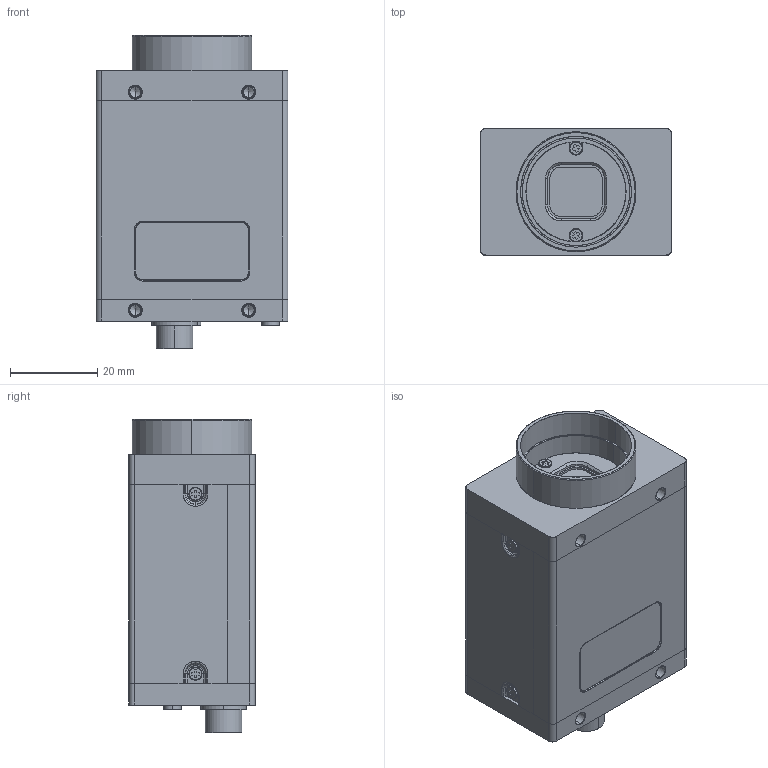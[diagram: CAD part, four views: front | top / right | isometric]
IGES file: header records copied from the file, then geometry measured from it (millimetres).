
Start section: SolidWorks IGES file using analytic representation for surfaces
Global section: file name: F:\mechanical\Documentation\Grasshopper\extracted files\GSR-002-R1.IGS; native system: SolidWorks 2014; preprocessor: SolidWorks 2014; author: gus; date: 131220.134542; units: millimetre
Bounding box: 44 x 29 x 71.8 mm (x, y, z)
Surface area: 13450.1 mm2 (no closed solid volume)
Topology: 0 solids, 0 shells, 471 faces, 4745 edges, 4725 vertices
Faces by surface type: bspline 271, revolution 200
